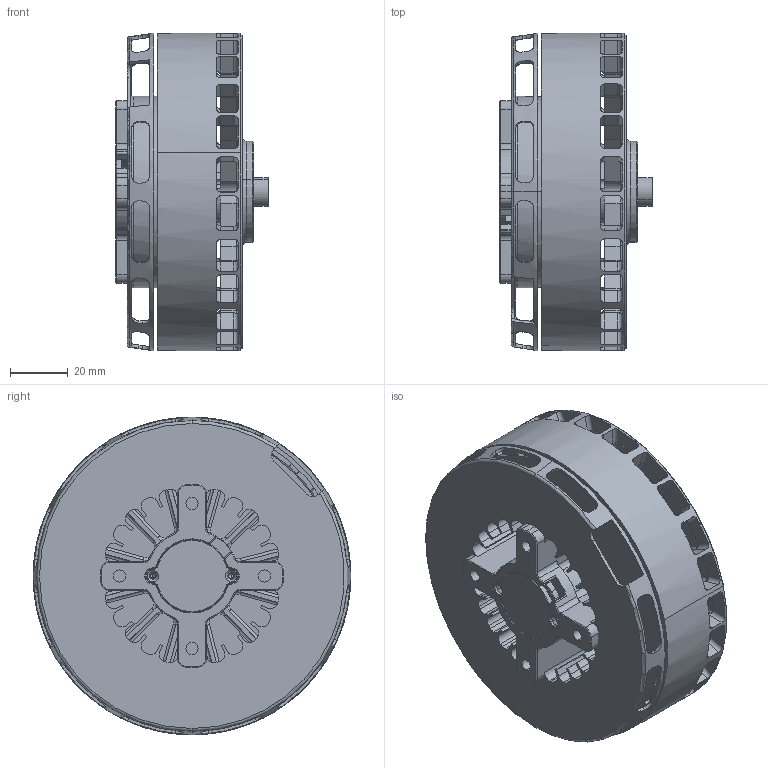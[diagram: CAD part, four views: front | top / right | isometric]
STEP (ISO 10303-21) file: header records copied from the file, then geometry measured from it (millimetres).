
FILE_DESCRIPTION (( 'STEP AP214' ), '1' );
FILE_NAME ('VL10015萇赽隅蔑.STEP', '2024-06-12T09:29:41', ( '' ), ( '' ), 'SwSTEP 2.0', 'SolidWorks 2021', '' );
FILE_SCHEMA (( 'AUTOMOTIVE_DESIGN' ));
Length unit declared in the file: millimetre
Products named in the file (1): VL10015萇赽隅蔑
Bounding box: 52.5 x 109.6 x 109.6 mm (x, y, z)
Volume: 164941.3 mm3; surface area: 110213.6 mm2
Topology: 52 solids, 57 shells, 3722 faces, 9908 edges, 5871 vertices
Faces by surface type: cylinder 1363, plane 1233, torus 415, sphere 400, bspline 175, cone 136
Entity records: 136449 total; most frequent: CARTESIAN_POINT 38480, ORIENTED_EDGE 18960, DIRECTION 17897, EDGE_CURVE 9480, AXIS2_PLACEMENT_3D 6936, VERTEX_POINT 5803, VECTOR 4025, LINE 4025
